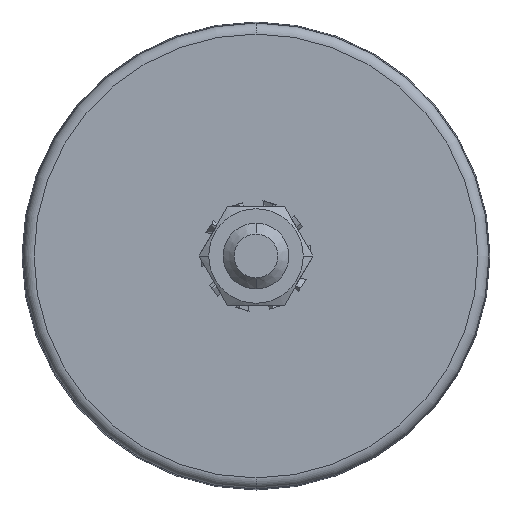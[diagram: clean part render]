
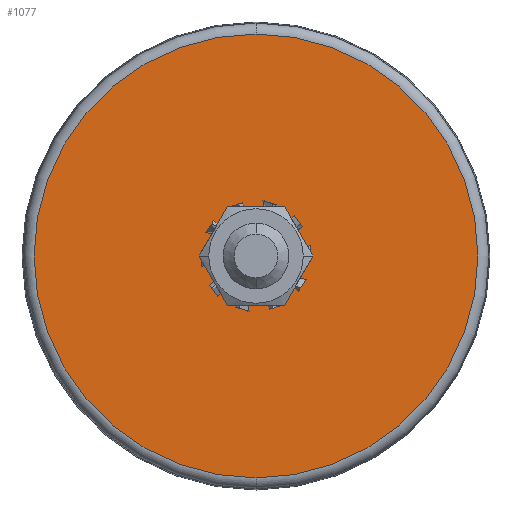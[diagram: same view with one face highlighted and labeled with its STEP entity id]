
A CAD part, front view. The second image highlights one B-rep face of the part: STEP entity #1077.
In plain terms, the highlighted planar face has unit normal (0, -1, 0).
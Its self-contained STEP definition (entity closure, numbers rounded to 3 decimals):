
#431 = CARTESIAN_POINT ( 'NONE',  ( 0., 0., 0. ) ) ;
#585 = DIRECTION ( 'NONE',  ( 0., 0., -1. ) ) ;
#839 = DIRECTION ( 'NONE',  ( 0., 0., -1. ) ) ;
#1077 = ADVANCED_FACE ( 'NONE', ( #2891, #3772 ), #7099, .T. ) ;
#1144 = CARTESIAN_POINT ( 'NONE',  ( 0., 0., 0. ) ) ;
#1410 = VERTEX_POINT ( 'NONE', #5837 ) ;
#1456 = AXIS2_PLACEMENT_3D ( 'NONE', #4322, #3106, #839 ) ;
#1603 = CARTESIAN_POINT ( 'NONE',  ( 0., 0., 0. ) ) ;
#1994 = CARTESIAN_POINT ( 'NONE',  ( 0., 0., 40.5 ) ) ;
#2591 = EDGE_LOOP ( 'NONE', ( #3077, #5337 ) ) ;
#2716 = DIRECTION ( 'NONE',  ( 0., 0., -1. ) ) ;
#2891 = FACE_BOUND ( 'NONE', #2591, .T. ) ;
#3077 = ORIENTED_EDGE ( 'NONE', *, *, #5104, .T. ) ;
#3106 = DIRECTION ( 'NONE',  ( 0., -1., 0. ) ) ;
#3144 = VERTEX_POINT ( 'NONE', #1994 ) ;
#3146 = CARTESIAN_POINT ( 'NONE',  ( 6., 0., 0. ) ) ;
#3181 = CIRCLE ( 'NONE', #4608, 8. ) ;
#3603 = EDGE_CURVE ( 'NONE', #3144, #1410, #6527, .T. ) ;
#3686 = DIRECTION ( 'NONE',  ( 0., -1., 0. ) ) ;
#3772 = FACE_OUTER_BOUND ( 'NONE', #5887, .T. ) ;
#3867 = DIRECTION ( 'NONE',  ( 0., 1., 0. ) ) ;
#4011 = CARTESIAN_POINT ( 'NONE',  ( 0., 0., -8. ) ) ;
#4273 = DIRECTION ( 'NONE',  ( 0., 0., -1. ) ) ;
#4322 = CARTESIAN_POINT ( 'NONE',  ( 0., 0., 0. ) ) ;
#4608 = AXIS2_PLACEMENT_3D ( 'NONE', #431, #3867, #2716 ) ;
#4714 = VERTEX_POINT ( 'NONE', #7168 ) ;
#5104 = EDGE_CURVE ( 'NONE', #5928, #4714, #5857, .T. ) ;
#5337 = ORIENTED_EDGE ( 'NONE', *, *, #6563, .T. ) ;
#5641 = DIRECTION ( 'NONE',  ( 0., 1., 0. ) ) ;
#5668 = DIRECTION ( 'NONE',  ( 0., 0., -1. ) ) ;
#5740 = AXIS2_PLACEMENT_3D ( 'NONE', #1144, #6360, #585 ) ;
#5837 = CARTESIAN_POINT ( 'NONE',  ( 0., 0., -40.5 ) ) ;
#5857 = CIRCLE ( 'NONE', #7039, 8. ) ;
#5887 = EDGE_LOOP ( 'NONE', ( #6777, #6428 ) ) ;
#5928 = VERTEX_POINT ( 'NONE', #4011 ) ;
#6360 = DIRECTION ( 'NONE',  ( 0., -1., 0. ) ) ;
#6428 = ORIENTED_EDGE ( 'NONE', *, *, #3603, .T. ) ;
#6527 = CIRCLE ( 'NONE', #1456, 40.5 ) ;
#6563 = EDGE_CURVE ( 'NONE', #4714, #5928, #3181, .T. ) ;
#6770 = CIRCLE ( 'NONE', #5740, 40.5 ) ;
#6777 = ORIENTED_EDGE ( 'NONE', *, *, #6952, .T. ) ;
#6952 = EDGE_CURVE ( 'NONE', #1410, #3144, #6770, .T. ) ;
#7039 = AXIS2_PLACEMENT_3D ( 'NONE', #1603, #5641, #5668 ) ;
#7099 = PLANE ( 'NONE',  #7223 ) ;
#7168 = CARTESIAN_POINT ( 'NONE',  ( 0., 0., 8. ) ) ;
#7223 = AXIS2_PLACEMENT_3D ( 'NONE', #3146, #3686, #4273 ) ;
